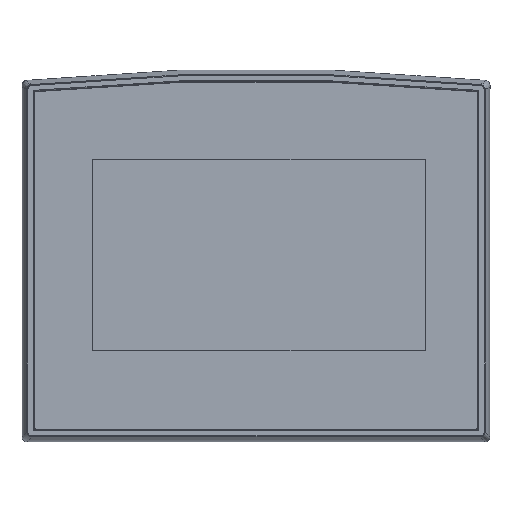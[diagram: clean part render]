
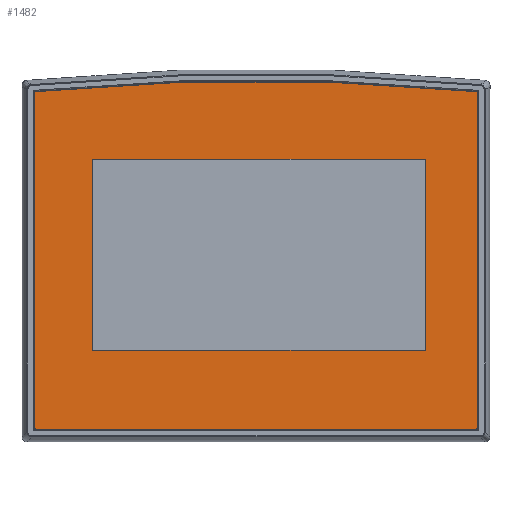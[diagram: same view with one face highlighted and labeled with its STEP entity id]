
A CAD part, top view. The second image highlights one B-rep face of the part: STEP entity #1482.
In plain terms, the highlighted planar face has unit normal (0, 0, 1).
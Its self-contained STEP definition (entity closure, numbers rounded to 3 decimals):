
#157 = DIRECTION ( 'NONE',  ( 0., 0., 1. ) ) ;
#444 = ORIENTED_EDGE ( 'NONE', *, *, #31596, .F. ) ;
#1482 = ADVANCED_FACE ( 'NONE', ( #9673, #24449 ), #4939, .T. ) ;
#2014 = CARTESIAN_POINT ( 'NONE',  ( 131.882, 3.618, 68.987 ) ) ;
#2511 = VERTEX_POINT ( 'NONE', #13638 ) ;
#2902 = VECTOR ( 'NONE', #5042, 1000. ) ;
#4405 = CARTESIAN_POINT ( 'NONE',  ( 4.118, 3.618, 68.987 ) ) ;
#4434 = EDGE_CURVE ( 'NONE', #14573, #26325, #46057, .T. ) ;
#4901 = CARTESIAN_POINT ( 'NONE',  ( 20.501, 82.107, 68.987 ) ) ;
#4939 = PLANE ( 'NONE',  #41911 ) ;
#5042 = DIRECTION ( 'NONE',  ( 0., -1., 0. ) ) ;
#5081 = EDGE_CURVE ( 'NONE', #61693, #10346, #36122, .T. ) ;
#5334 = ORIENTED_EDGE ( 'NONE', *, *, #38151, .T. ) ;
#5801 = DIRECTION ( 'NONE',  ( 0., 0., 1. ) ) ;
#5939 = VECTOR ( 'NONE', #7391, 1000. ) ;
#6938 = VERTEX_POINT ( 'NONE', #30939 ) ;
#7391 = DIRECTION ( 'NONE',  ( -1., 0., 0. ) ) ;
#7541 = EDGE_LOOP ( 'NONE', ( #444, #49123, #35712, #29253 ) ) ;
#8740 = ORIENTED_EDGE ( 'NONE', *, *, #5081, .T. ) ;
#9444 = AXIS2_PLACEMENT_3D ( 'NONE', #16004, #30781, #40544 ) ;
#9673 = FACE_OUTER_BOUND ( 'NONE', #48649, .T. ) ;
#10346 = VERTEX_POINT ( 'NONE', #2014 ) ;
#10960 = ORIENTED_EDGE ( 'NONE', *, *, #40412, .T. ) ;
#11269 = EDGE_CURVE ( 'NONE', #26325, #2511, #46109, .T. ) ;
#12891 = DIRECTION ( 'NONE',  ( 1., 0., 0. ) ) ;
#13097 = EDGE_CURVE ( 'NONE', #27227, #45296, #39741, .T. ) ;
#13638 = CARTESIAN_POINT ( 'NONE',  ( 20.501, 26.607, 68.987 ) ) ;
#14573 = VERTEX_POINT ( 'NONE', #15150 ) ;
#15150 = CARTESIAN_POINT ( 'NONE',  ( 117.201, 82.107, 68.987 ) ) ;
#15493 = ORIENTED_EDGE ( 'NONE', *, *, #13097, .T. ) ;
#15672 = ORIENTED_EDGE ( 'NONE', *, *, #39772, .T. ) ;
#16004 = CARTESIAN_POINT ( 'NONE',  ( 4.118, 101.273, 68.987 ) ) ;
#16176 = AXIS2_PLACEMENT_3D ( 'NONE', #43583, #157, #52993 ) ;
#16669 = VERTEX_POINT ( 'NONE', #30430 ) ;
#20022 = VECTOR ( 'NONE', #45845, 1000. ) ;
#21060 = CARTESIAN_POINT ( 'NONE',  ( 4.069, 101.77, 68.987 ) ) ;
#21426 = ORIENTED_EDGE ( 'NONE', *, *, #56717, .T. ) ;
#22804 = CARTESIAN_POINT ( 'NONE',  ( 131.882, 4.118, 68.987 ) ) ;
#23003 = CARTESIAN_POINT ( 'NONE',  ( 132.382, 3.618, 68.987 ) ) ;
#23644 = AXIS2_PLACEMENT_3D ( 'NONE', #41977, #61441, #31942 ) ;
#24418 = VECTOR ( 'NONE', #50610, 1000. ) ;
#24449 = FACE_BOUND ( 'NONE', #7541, .T. ) ;
#25953 = LINE ( 'NONE', #23003, #49107 ) ;
#26325 = VERTEX_POINT ( 'NONE', #4901 ) ;
#26912 = EDGE_CURVE ( 'NONE', #2511, #16669, #31799, .T. ) ;
#27227 = VERTEX_POINT ( 'NONE', #46145 ) ;
#28246 = CARTESIAN_POINT ( 'NONE',  ( 68., -558.394, 68.987 ) ) ;
#28777 = CARTESIAN_POINT ( 'NONE',  ( 131.882, 101.273, 68.987 ) ) ;
#28891 = EDGE_CURVE ( 'NONE', #45296, #31505, #36604, .T. ) ;
#29250 = CARTESIAN_POINT ( 'NONE',  ( 3.618, 101.273, 68.987 ) ) ;
#29253 = ORIENTED_EDGE ( 'NONE', *, *, #4434, .F. ) ;
#30108 = AXIS2_PLACEMENT_3D ( 'NONE', #22804, #60833, #31946 ) ;
#30430 = CARTESIAN_POINT ( 'NONE',  ( 117.201, 26.607, 68.987 ) ) ;
#30778 = VERTEX_POINT ( 'NONE', #33194 ) ;
#30781 = DIRECTION ( 'NONE',  ( 0., 0., 1. ) ) ;
#30939 = CARTESIAN_POINT ( 'NONE',  ( 132.382, 101.273, 68.987 ) ) ;
#31505 = VERTEX_POINT ( 'NONE', #29250 ) ;
#31596 = EDGE_CURVE ( 'NONE', #16669, #14573, #55632, .T. ) ;
#31799 = LINE ( 'NONE', #41829, #47461 ) ;
#31942 = DIRECTION ( 'NONE',  ( 1., 0., 0. ) ) ;
#31946 = DIRECTION ( 'NONE',  ( 1., 0., 0. ) ) ;
#32784 = DIRECTION ( 'NONE',  ( 0., 1., 0. ) ) ;
#33194 = CARTESIAN_POINT ( 'NONE',  ( 132.382, 4.118, 68.987 ) ) ;
#33201 = DIRECTION ( 'NONE',  ( 1., 0., 0. ) ) ;
#34427 = CARTESIAN_POINT ( 'NONE',  ( 3.618, 4.118, 68.987 ) ) ;
#34472 = CIRCLE ( 'NONE', #46482, 0.5 ) ;
#35712 = ORIENTED_EDGE ( 'NONE', *, *, #11269, .F. ) ;
#35815 = CARTESIAN_POINT ( 'NONE',  ( 3.618, 3.618, 68.987 ) ) ;
#36122 = LINE ( 'NONE', #35815, #20022 ) ;
#36604 = CIRCLE ( 'NONE', #9444, 0.5 ) ;
#38151 = EDGE_CURVE ( 'NONE', #6938, #27227, #34472, .T. ) ;
#39031 = CARTESIAN_POINT ( 'NONE',  ( 3.618, 101.726, 68.987 ) ) ;
#39346 = LINE ( 'NONE', #39031, #2902 ) ;
#39741 = CIRCLE ( 'NONE', #23644, 663.252 ) ;
#39772 = EDGE_CURVE ( 'NONE', #31505, #51700, #39346, .T. ) ;
#40412 = EDGE_CURVE ( 'NONE', #30778, #6938, #25953, .T. ) ;
#40544 = DIRECTION ( 'NONE',  ( 1., 0., 0. ) ) ;
#41283 = CIRCLE ( 'NONE', #16176, 0.5 ) ;
#41829 = CARTESIAN_POINT ( 'NONE',  ( 20.501, 26.607, 68.987 ) ) ;
#41911 = AXIS2_PLACEMENT_3D ( 'NONE', #28246, #61555, #52448 ) ;
#41977 = CARTESIAN_POINT ( 'NONE',  ( 68., -558.394, 68.987 ) ) ;
#43583 = CARTESIAN_POINT ( 'NONE',  ( 4.118, 4.118, 68.987 ) ) ;
#45141 = CIRCLE ( 'NONE', #30108, 0.5 ) ;
#45296 = VERTEX_POINT ( 'NONE', #21060 ) ;
#45845 = DIRECTION ( 'NONE',  ( 1., 0., 0. ) ) ;
#46057 = LINE ( 'NONE', #49852, #5939 ) ;
#46109 = LINE ( 'NONE', #52615, #49586 ) ;
#46145 = CARTESIAN_POINT ( 'NONE',  ( 131.931, 101.77, 68.987 ) ) ;
#46482 = AXIS2_PLACEMENT_3D ( 'NONE', #28777, #5801, #33201 ) ;
#47461 = VECTOR ( 'NONE', #12891, 1000. ) ;
#47576 = DIRECTION ( 'NONE',  ( 0., -1., 0. ) ) ;
#48649 = EDGE_LOOP ( 'NONE', ( #15672, #60278, #8740, #21426, #10960, #5334, #15493, #60772 ) ) ;
#49107 = VECTOR ( 'NONE', #32784, 1000. ) ;
#49123 = ORIENTED_EDGE ( 'NONE', *, *, #26912, .F. ) ;
#49586 = VECTOR ( 'NONE', #47576, 1000. ) ;
#49852 = CARTESIAN_POINT ( 'NONE',  ( 117.201, 82.107, 68.987 ) ) ;
#50610 = DIRECTION ( 'NONE',  ( 0., 1., 0. ) ) ;
#51221 = CARTESIAN_POINT ( 'NONE',  ( 117.201, 26.607, 68.987 ) ) ;
#51700 = VERTEX_POINT ( 'NONE', #34427 ) ;
#52448 = DIRECTION ( 'NONE',  ( -0.707, 0.707, 0. ) ) ;
#52615 = CARTESIAN_POINT ( 'NONE',  ( 20.501, 82.107, 68.987 ) ) ;
#52993 = DIRECTION ( 'NONE',  ( 1., 0., 0. ) ) ;
#55632 = LINE ( 'NONE', #51221, #24418 ) ;
#56717 = EDGE_CURVE ( 'NONE', #10346, #30778, #45141, .T. ) ;
#58524 = EDGE_CURVE ( 'NONE', #51700, #61693, #41283, .T. ) ;
#60278 = ORIENTED_EDGE ( 'NONE', *, *, #58524, .T. ) ;
#60772 = ORIENTED_EDGE ( 'NONE', *, *, #28891, .T. ) ;
#60833 = DIRECTION ( 'NONE',  ( 0., 0., 1. ) ) ;
#61441 = DIRECTION ( 'NONE',  ( 0., 0., 1. ) ) ;
#61555 = DIRECTION ( 'NONE',  ( 0., 0., 1. ) ) ;
#61693 = VERTEX_POINT ( 'NONE', #4405 ) ;
